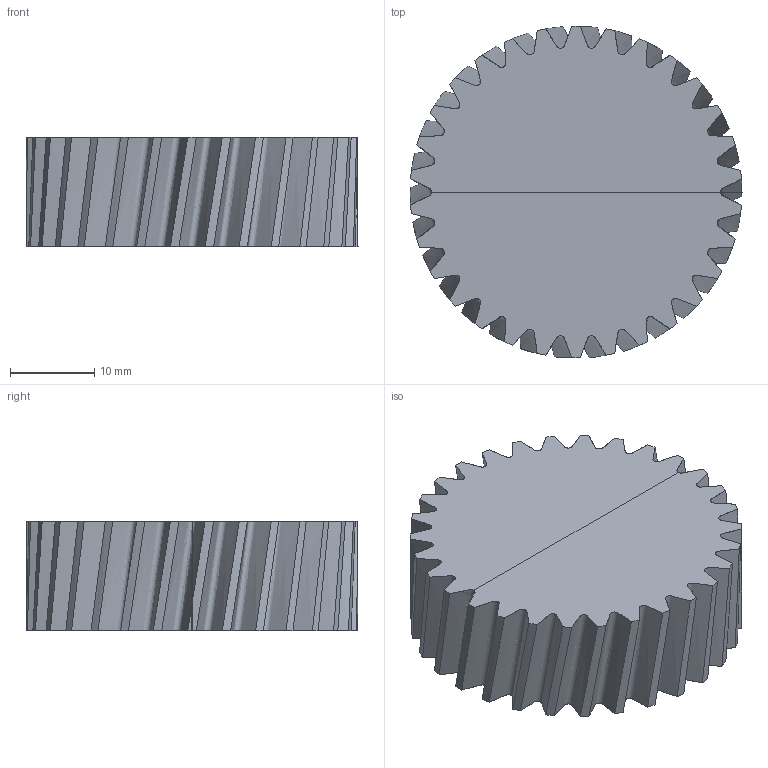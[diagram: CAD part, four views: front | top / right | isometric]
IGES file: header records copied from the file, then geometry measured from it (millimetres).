
Start section: 3D InterOp IGES (Version 18 0 1), Spatial Corp. Copyright (c) 1999-2007.
Global section: file name: export0.igs; native system: Spatial Corp.; preprocessor: 3D InterOp ACIS/IGES; author: Noname; organization: Noname; date: 20080801.123649; units: centimetre
Bounding box: 39.37 x 39.36 x 12.95 mm (x, y, z)
Surface area: 5866.3 mm2 (no closed solid volume)
Topology: 0 solids, 0 shells, 72 faces, 410 edges, 410 vertices
Faces by surface type: bspline 72
